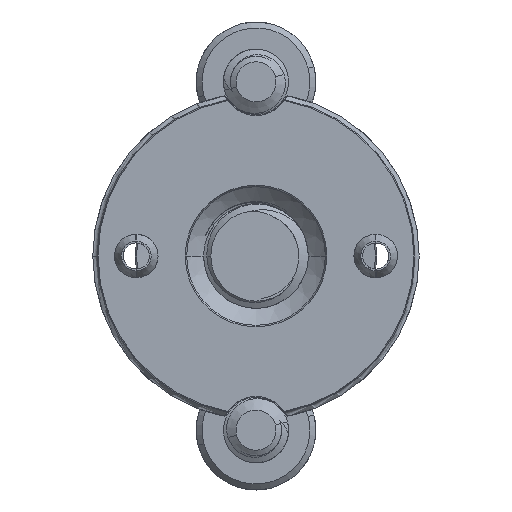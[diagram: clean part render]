
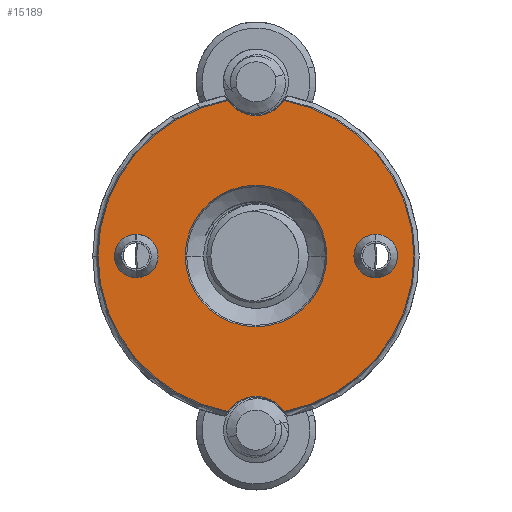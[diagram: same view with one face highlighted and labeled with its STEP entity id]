
A CAD part, front view. The second image highlights one B-rep face of the part: STEP entity #15189.
In plain terms, the highlighted planar face has unit normal (0, -1, 0).
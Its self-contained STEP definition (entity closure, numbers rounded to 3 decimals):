
#644 = AXIS2_PLACEMENT_3D ( 'NONE', #45396, #50529, #25386 ) ;
#1101 = FACE_BOUND ( 'NONE', #58578, .T. ) ;
#1416 = FACE_BOUND ( 'NONE', #41060, .T. ) ;
#2976 = CARTESIAN_POINT ( 'NONE',  ( 0., -8.8, -8. ) ) ;
#4320 = ORIENTED_EDGE ( 'NONE', *, *, #59517, .F. ) ;
#5326 = DIRECTION ( 'NONE',  ( -1., 0., 0. ) ) ;
#5753 = DIRECTION ( 'NONE',  ( -1., 0., 0. ) ) ;
#7020 = CARTESIAN_POINT ( 'NONE',  ( -4.5, -8.8, 0. ) ) ;
#7142 = ORIENTED_EDGE ( 'NONE', *, *, #31064, .T. ) ;
#7731 = EDGE_LOOP ( 'NONE', ( #12211, #34298, #36960, #23936, #4320, #59884 ) ) ;
#7822 = DIRECTION ( 'NONE',  ( 0., -1., 0. ) ) ;
#8085 = CARTESIAN_POINT ( 'NONE',  ( 1.29, -8.8, -7.141 ) ) ;
#9005 = DIRECTION ( 'NONE',  ( -1., 0., 0. ) ) ;
#9746 = AXIS2_PLACEMENT_3D ( 'NONE', #38316, #14119, #9005 ) ;
#11413 = CARTESIAN_POINT ( 'NONE',  ( -7.5, -8.8, -7.352 ) ) ;
#11542 = DIRECTION ( 'NONE',  ( 0., -1., 0. ) ) ;
#12211 = ORIENTED_EDGE ( 'NONE', *, *, #45029, .T. ) ;
#12992 = EDGE_CURVE ( 'NONE', #34730, #36351, #49496, .T. ) ;
#13178 = CIRCLE ( 'NONE', #50235, 1.55 ) ;
#14119 = DIRECTION ( 'NONE',  ( 0., 1., 0. ) ) ;
#15097 = ORIENTED_EDGE ( 'NONE', *, *, #31600, .F. ) ;
#15189 = ADVANCED_FACE ( 'NONE', ( #1416, #39805, #1101, #35272 ), #55566, .F. ) ;
#15322 = DIRECTION ( 'NONE',  ( -1., 0., 0. ) ) ;
#15470 = CARTESIAN_POINT ( 'NONE',  ( 3.25, -8.8, 0. ) ) ;
#16215 = CARTESIAN_POINT ( 'NONE',  ( 4.5, -8.8, 0. ) ) ;
#18404 = DIRECTION ( 'NONE',  ( -1., 0., 0. ) ) ;
#18558 = AXIS2_PLACEMENT_3D ( 'NONE', #58458, #38786, #23945 ) ;
#19106 = VERTEX_POINT ( 'NONE', #25928 ) ;
#19256 = EDGE_CURVE ( 'NONE', #23135, #39756, #63028, .T. ) ;
#20352 = CARTESIAN_POINT ( 'NONE',  ( 0., -8.8, 0. ) ) ;
#20546 = VERTEX_POINT ( 'NONE', #59209 ) ;
#20764 = DIRECTION ( 'NONE',  ( 0., 1., 0. ) ) ;
#20784 = EDGE_LOOP ( 'NONE', ( #36326, #15097 ) ) ;
#23135 = VERTEX_POINT ( 'NONE', #58035 ) ;
#23936 = ORIENTED_EDGE ( 'NONE', *, *, #19256, .T. ) ;
#23945 = DIRECTION ( 'NONE',  ( -1., 0., 0. ) ) ;
#23981 = CIRCLE ( 'NONE', #9746, 3.25 ) ;
#24288 = CIRCLE ( 'NONE', #60310, 1. ) ;
#24599 = AXIS2_PLACEMENT_3D ( 'NONE', #35084, #11542, #45417 ) ;
#25386 = DIRECTION ( 'NONE',  ( -1., 0., 0. ) ) ;
#25499 = VERTEX_POINT ( 'NONE', #16215 ) ;
#25928 = CARTESIAN_POINT ( 'NONE',  ( 1.29, -8.8, 7.141 ) ) ;
#26840 = DIRECTION ( 'NONE',  ( -1., 0., 0. ) ) ;
#27455 = DIRECTION ( 'NONE',  ( -1., 0., 0. ) ) ;
#28448 = CIRCLE ( 'NONE', #644, 3.25 ) ;
#29291 = DIRECTION ( 'NONE',  ( 0., -1., 0. ) ) ;
#29535 = EDGE_CURVE ( 'NONE', #25499, #56652, #24288, .T. ) ;
#29633 = ORIENTED_EDGE ( 'NONE', *, *, #56169, .T. ) ;
#31064 = EDGE_CURVE ( 'NONE', #40515, #20546, #23981, .T. ) ;
#31600 = EDGE_CURVE ( 'NONE', #36351, #34730, #50762, .T. ) ;
#32309 = CIRCLE ( 'NONE', #60112, 1.55 ) ;
#32734 = AXIS2_PLACEMENT_3D ( 'NONE', #2976, #46525, #26840 ) ;
#34275 = CARTESIAN_POINT ( 'NONE',  ( -1.29, -8.8, 7.141 ) ) ;
#34298 = ORIENTED_EDGE ( 'NONE', *, *, #46637, .F. ) ;
#34730 = VERTEX_POINT ( 'NONE', #7020 ) ;
#34922 = ORIENTED_EDGE ( 'NONE', *, *, #29535, .F. ) ;
#35084 = CARTESIAN_POINT ( 'NONE',  ( 0., -8.8, 0. ) ) ;
#35272 = FACE_BOUND ( 'NONE', #20784, .T. ) ;
#35612 = CARTESIAN_POINT ( 'NONE',  ( 0., -8.8, -8. ) ) ;
#35889 = CARTESIAN_POINT ( 'NONE',  ( 5.5, -8.8, 0. ) ) ;
#35932 = DIRECTION ( 'NONE',  ( 0., -1., 0. ) ) ;
#36028 = CARTESIAN_POINT ( 'NONE',  ( 6.5, -8.8, 0. ) ) ;
#36215 = DIRECTION ( 'NONE',  ( 0., -1., 0. ) ) ;
#36326 = ORIENTED_EDGE ( 'NONE', *, *, #12992, .F. ) ;
#36351 = VERTEX_POINT ( 'NONE', #60452 ) ;
#36634 = CIRCLE ( 'NONE', #59284, 1. ) ;
#36960 = ORIENTED_EDGE ( 'NONE', *, *, #62345, .T. ) ;
#38316 = CARTESIAN_POINT ( 'NONE',  ( 0., -8.8, 0. ) ) ;
#38396 = CARTESIAN_POINT ( 'NONE',  ( -1.29, -8.8, -7.141 ) ) ;
#38716 = ORIENTED_EDGE ( 'NONE', *, *, #54378, .F. ) ;
#38736 = CARTESIAN_POINT ( 'NONE',  ( 0., -8.8, 0. ) ) ;
#38786 = DIRECTION ( 'NONE',  ( 0., -1., 0. ) ) ;
#39075 = DIRECTION ( 'NONE',  ( 0., -1., 0. ) ) ;
#39756 = VERTEX_POINT ( 'NONE', #38396 ) ;
#39805 = FACE_OUTER_BOUND ( 'NONE', #7731, .T. ) ;
#40515 = VERTEX_POINT ( 'NONE', #15470 ) ;
#41060 = EDGE_LOOP ( 'NONE', ( #29633, #7142 ) ) ;
#43239 = DIRECTION ( 'NONE',  ( 0., -1., 0. ) ) ;
#43985 = VERTEX_POINT ( 'NONE', #34275 ) ;
#43997 = DIRECTION ( 'NONE',  ( 0., -1., 0. ) ) ;
#45029 = EDGE_CURVE ( 'NONE', #63602, #19106, #49187, .T. ) ;
#45396 = CARTESIAN_POINT ( 'NONE',  ( 0., -8.8, 0. ) ) ;
#45417 = DIRECTION ( 'NONE',  ( -1., 0., 0. ) ) ;
#46525 = DIRECTION ( 'NONE',  ( 0., -1., 0. ) ) ;
#46588 = CARTESIAN_POINT ( 'NONE',  ( 0., -8.8, -6.45 ) ) ;
#46637 = EDGE_CURVE ( 'NONE', #43985, #19106, #32309, .T. ) ;
#48771 = VERTEX_POINT ( 'NONE', #46588 ) ;
#49187 = CIRCLE ( 'NONE', #51216, 7.256 ) ;
#49496 = CIRCLE ( 'NONE', #18558, 1. ) ;
#49918 = CARTESIAN_POINT ( 'NONE',  ( 0., -8.8, 8. ) ) ;
#50235 = AXIS2_PLACEMENT_3D ( 'NONE', #35612, #35932, #15322 ) ;
#50529 = DIRECTION ( 'NONE',  ( 0., 1., 0. ) ) ;
#50727 = DIRECTION ( 'NONE',  ( -1., 0., 0. ) ) ;
#50762 = CIRCLE ( 'NONE', #60014, 1. ) ;
#51216 = AXIS2_PLACEMENT_3D ( 'NONE', #38736, #7822, #27455 ) ;
#52281 = CARTESIAN_POINT ( 'NONE',  ( -5.5, -8.8, 0. ) ) ;
#52725 = AXIS2_PLACEMENT_3D ( 'NONE', #20352, #39075, #58758 ) ;
#54378 = EDGE_CURVE ( 'NONE', #56652, #25499, #36634, .T. ) ;
#55566 = PLANE ( 'NONE',  #58659 ) ;
#56169 = EDGE_CURVE ( 'NONE', #20546, #40515, #28448, .T. ) ;
#56652 = VERTEX_POINT ( 'NONE', #36028 ) ;
#58035 = CARTESIAN_POINT ( 'NONE',  ( -7.256, -8.8, 0. ) ) ;
#58458 = CARTESIAN_POINT ( 'NONE',  ( -5.5, -8.8, 0. ) ) ;
#58578 = EDGE_LOOP ( 'NONE', ( #38716, #34922 ) ) ;
#58587 = CIRCLE ( 'NONE', #24599, 7.256 ) ;
#58659 = AXIS2_PLACEMENT_3D ( 'NONE', #11413, #20764, #5326 ) ;
#58758 = DIRECTION ( 'NONE',  ( -1., 0., 0. ) ) ;
#59136 = CARTESIAN_POINT ( 'NONE',  ( 5.5, -8.8, 0. ) ) ;
#59209 = CARTESIAN_POINT ( 'NONE',  ( -3.25, -8.8, 0. ) ) ;
#59284 = AXIS2_PLACEMENT_3D ( 'NONE', #59136, #43997, #63664 ) ;
#59517 = EDGE_CURVE ( 'NONE', #48771, #39756, #13178, .T. ) ;
#59884 = ORIENTED_EDGE ( 'NONE', *, *, #60371, .F. ) ;
#60014 = AXIS2_PLACEMENT_3D ( 'NONE', #52281, #43239, #18404 ) ;
#60112 = AXIS2_PLACEMENT_3D ( 'NONE', #49918, #29291, #5753 ) ;
#60310 = AXIS2_PLACEMENT_3D ( 'NONE', #35889, #36215, #50727 ) ;
#60371 = EDGE_CURVE ( 'NONE', #63602, #48771, #60539, .T. ) ;
#60452 = CARTESIAN_POINT ( 'NONE',  ( -6.5, -8.8, 0. ) ) ;
#60539 = CIRCLE ( 'NONE', #32734, 1.55 ) ;
#62345 = EDGE_CURVE ( 'NONE', #43985, #23135, #58587, .T. ) ;
#63028 = CIRCLE ( 'NONE', #52725, 7.256 ) ;
#63602 = VERTEX_POINT ( 'NONE', #8085 ) ;
#63664 = DIRECTION ( 'NONE',  ( -1., 0., 0. ) ) ;
